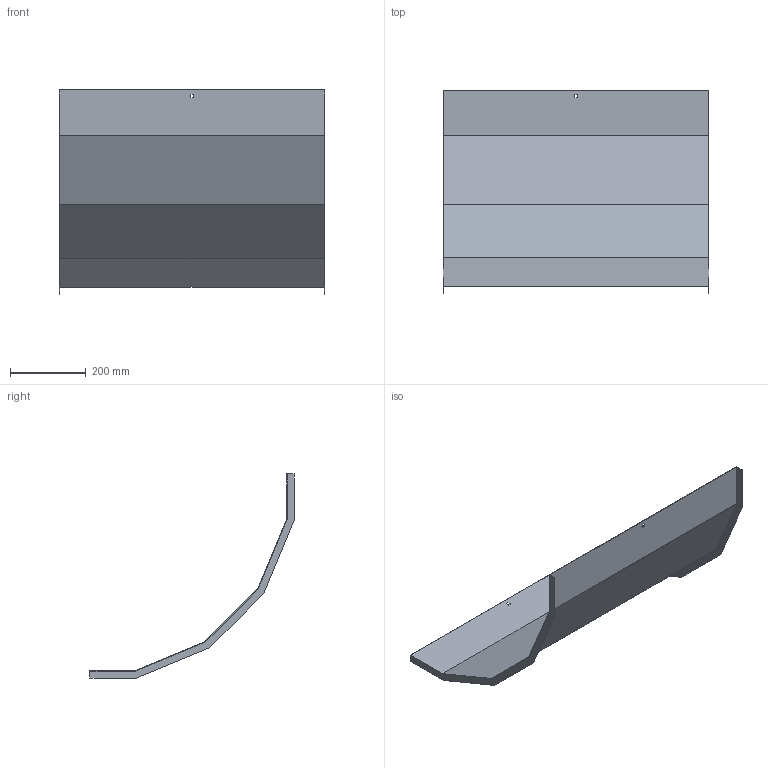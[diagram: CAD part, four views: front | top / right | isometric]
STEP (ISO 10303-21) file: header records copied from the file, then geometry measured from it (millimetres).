
FILE_DESCRIPTION (( 'STEP AP214' ), '1' );
FILE_NAME ('30N5R700_H150.step', '2025-02-21T14:29:48', ( '' ), ( '' ), 'SwSTEP 2.0', 'SolidWorks 2023', '' );
FILE_SCHEMA (( 'AUTOMOTIVE_DESIGN' ));
Length unit declared in the file: millimetre
Products named in the file (1): 30N5R700_H150
Bounding box: 703 x 540.72 x 540.72 mm (x, y, z)
Volume: 931102.4 mm3; surface area: 1246385.8 mm2
Topology: 1 solids, 1 shells, 34 faces, 96 edges, 64 vertices
Faces by surface type: plane 34
Entity records: 1111 total; most frequent: CARTESIAN_POINT 195, ORIENTED_EDGE 192, DIRECTION 166, VECTOR 96, LINE 96, EDGE_CURVE 96, VERTEX_POINT 64, EDGE_LOOP 38
